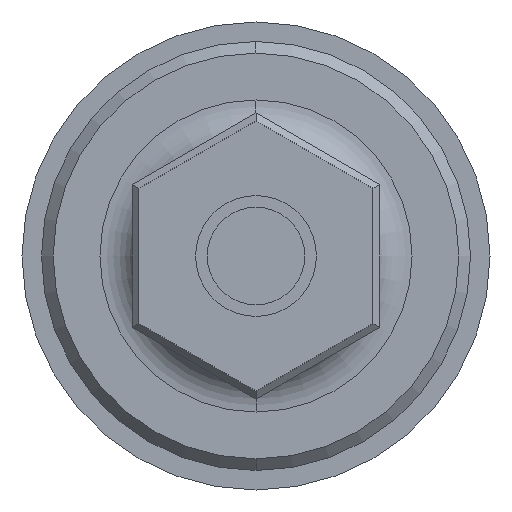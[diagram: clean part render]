
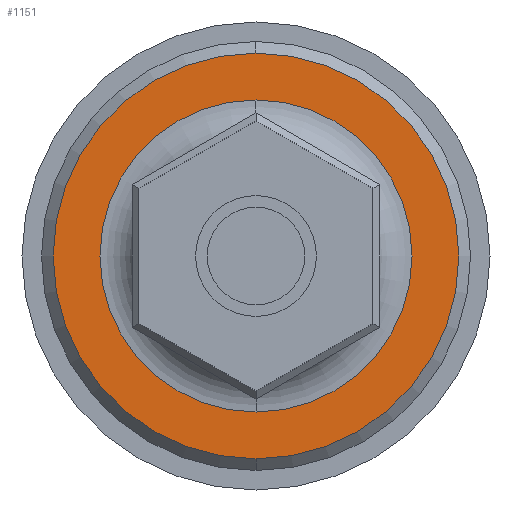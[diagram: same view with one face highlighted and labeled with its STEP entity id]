
A CAD part, front view. The second image highlights one B-rep face of the part: STEP entity #1151.
In plain terms, the highlighted planar face has unit normal (0, -1, 0).
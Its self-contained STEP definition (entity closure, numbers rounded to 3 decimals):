
#225=CARTESIAN_POINT('',(0.,43.8,0.));
#226=DIRECTION('',(0.,-1.,0.));
#227=DIRECTION('',(0.,0.,-1.));
#228=AXIS2_PLACEMENT_3D('',#225,#226,#227);
#230=CARTESIAN_POINT('',(0.,43.8,0.));
#231=DIRECTION('',(0.,-1.,0.));
#232=DIRECTION('',(0.,0.,1.));
#233=AXIS2_PLACEMENT_3D('',#230,#231,#232);
#235=CARTESIAN_POINT('',(0.,43.8,0.));
#236=DIRECTION('',(0.,1.,0.));
#237=DIRECTION('',(0.,0.,-1.));
#238=AXIS2_PLACEMENT_3D('',#235,#236,#237);
#240=CARTESIAN_POINT('',(0.,43.8,0.));
#241=DIRECTION('',(0.,1.,0.));
#242=DIRECTION('',(0.,0.,1.));
#243=AXIS2_PLACEMENT_3D('',#240,#241,#242);
#681=CARTESIAN_POINT('',(0.,43.8,-4.));
#682=CARTESIAN_POINT('',(0.,43.8,4.));
#683=VERTEX_POINT('',#681);
#684=VERTEX_POINT('',#682);
#697=CARTESIAN_POINT('',(0.,43.8,-5.2));
#698=CARTESIAN_POINT('',(0.,43.8,5.2));
#699=VERTEX_POINT('',#697);
#700=VERTEX_POINT('',#698);
#1135=CARTESIAN_POINT('',(0.,43.8,0.));
#1136=DIRECTION('',(0.,-1.,0.));
#1137=DIRECTION('',(0.,0.,1.));
#1138=AXIS2_PLACEMENT_3D('',#1135,#1136,#1137);
#1139=PLANE('',#1138);
#1141=ORIENTED_EDGE('',*,*,#1140,.F.);
#1142=ORIENTED_EDGE('',*,*,#1118,.F.);
#1143=EDGE_LOOP('',(#1141,#1142));
#1144=FACE_OUTER_BOUND('',#1143,.F.);
#1146=ORIENTED_EDGE('',*,*,#1145,.F.);
#1148=ORIENTED_EDGE('',*,*,#1147,.F.);
#1149=EDGE_LOOP('',(#1146,#1148));
#1150=FACE_BOUND('',#1149,.F.);
#229=CIRCLE('',#228,5.2);
#234=CIRCLE('',#233,5.2);
#239=CIRCLE('',#238,4.);
#244=CIRCLE('',#243,4.);
#1118=EDGE_CURVE('',#700,#699,#234,.T.);
#1140=EDGE_CURVE('',#699,#700,#229,.T.);
#1145=EDGE_CURVE('',#683,#684,#239,.T.);
#1147=EDGE_CURVE('',#684,#683,#244,.T.);
#1151=ADVANCED_FACE('',(#1144,#1150),#1139,.T.);
